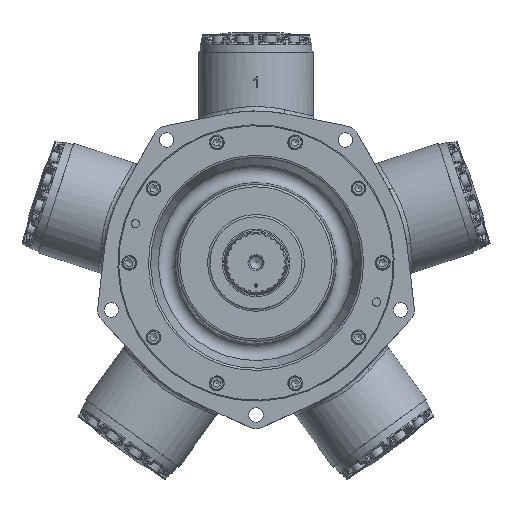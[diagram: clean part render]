
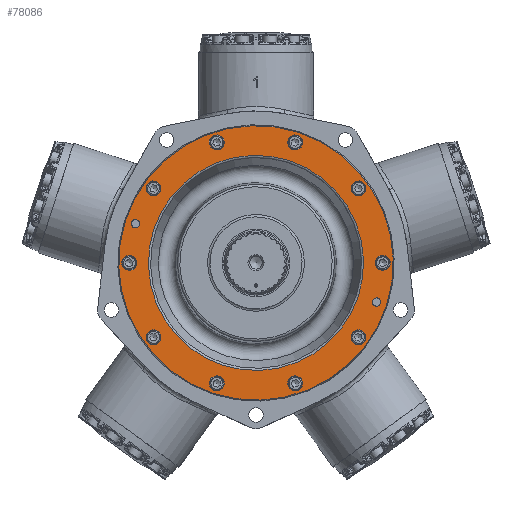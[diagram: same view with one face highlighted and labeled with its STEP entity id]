
A CAD part, top view. The second image highlights one B-rep face of the part: STEP entity #78086.
In plain terms, the highlighted planar face has unit normal (0, 0, 1).
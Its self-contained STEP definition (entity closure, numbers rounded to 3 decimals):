
#7395=FACE_BOUND('',#22198,.T.);
#7396=FACE_BOUND('',#22199,.T.);
#7397=FACE_BOUND('',#22200,.T.);
#7398=FACE_BOUND('',#22201,.T.);
#7399=FACE_BOUND('',#22202,.T.);
#7400=FACE_BOUND('',#22203,.T.);
#7401=FACE_BOUND('',#22204,.T.);
#7402=FACE_BOUND('',#22205,.T.);
#7403=FACE_BOUND('',#22206,.T.);
#7404=FACE_BOUND('',#22207,.T.);
#7405=FACE_BOUND('',#22208,.T.);
#7406=FACE_BOUND('',#22209,.T.);
#7407=FACE_BOUND('',#22210,.T.);
#17291=FACE_OUTER_BOUND('',#22197,.T.);
#22197=EDGE_LOOP('',(#54760));
#22198=EDGE_LOOP('',(#54761));
#22199=EDGE_LOOP('',(#54762));
#22200=EDGE_LOOP('',(#54763));
#22201=EDGE_LOOP('',(#54764));
#22202=EDGE_LOOP('',(#54765));
#22203=EDGE_LOOP('',(#54766));
#22204=EDGE_LOOP('',(#54767));
#22205=EDGE_LOOP('',(#54768));
#22206=EDGE_LOOP('',(#54769));
#22207=EDGE_LOOP('',(#54770));
#22208=EDGE_LOOP('',(#54771));
#22209=EDGE_LOOP('',(#54772));
#22210=EDGE_LOOP('',(#54773));
#26589=CIRCLE('',#83486,148.273);
#26601=CIRCLE('',#83506,189.179);
#26602=CIRCLE('',#83507,5.664);
#26603=CIRCLE('',#83508,5.664);
#26604=CIRCLE('',#83509,10.319);
#26605=CIRCLE('',#83510,10.319);
#26606=CIRCLE('',#83511,10.319);
#26607=CIRCLE('',#83512,10.319);
#26608=CIRCLE('',#83513,10.319);
#26609=CIRCLE('',#83514,10.319);
#26610=CIRCLE('',#83515,10.319);
#26611=CIRCLE('',#83516,10.319);
#26612=CIRCLE('',#83517,10.319);
#26613=CIRCLE('',#83518,10.319);
#31109=VERTEX_POINT('',#149790);
#31119=VERTEX_POINT('',#149824);
#31120=VERTEX_POINT('',#149826);
#31121=VERTEX_POINT('',#149828);
#31122=VERTEX_POINT('',#149830);
#31123=VERTEX_POINT('',#149832);
#31124=VERTEX_POINT('',#149834);
#31125=VERTEX_POINT('',#149836);
#31126=VERTEX_POINT('',#149838);
#31127=VERTEX_POINT('',#149840);
#31128=VERTEX_POINT('',#149842);
#31129=VERTEX_POINT('',#149844);
#31130=VERTEX_POINT('',#149846);
#31131=VERTEX_POINT('',#149848);
#39505=EDGE_CURVE('',#31109,#31109,#26589,.T.);
#39520=EDGE_CURVE('',#31119,#31119,#26601,.T.);
#39521=EDGE_CURVE('',#31120,#31120,#26602,.T.);
#39522=EDGE_CURVE('',#31121,#31121,#26603,.T.);
#39523=EDGE_CURVE('',#31122,#31122,#26604,.T.);
#39524=EDGE_CURVE('',#31123,#31123,#26605,.T.);
#39525=EDGE_CURVE('',#31124,#31124,#26606,.T.);
#39526=EDGE_CURVE('',#31125,#31125,#26607,.T.);
#39527=EDGE_CURVE('',#31126,#31126,#26608,.T.);
#39528=EDGE_CURVE('',#31127,#31127,#26609,.T.);
#39529=EDGE_CURVE('',#31128,#31128,#26610,.T.);
#39530=EDGE_CURVE('',#31129,#31129,#26611,.T.);
#39531=EDGE_CURVE('',#31130,#31130,#26612,.T.);
#39532=EDGE_CURVE('',#31131,#31131,#26613,.T.);
#54760=ORIENTED_EDGE('',*,*,#39520,.F.);
#54761=ORIENTED_EDGE('',*,*,#39521,.T.);
#54762=ORIENTED_EDGE('',*,*,#39522,.T.);
#54763=ORIENTED_EDGE('',*,*,#39523,.T.);
#54764=ORIENTED_EDGE('',*,*,#39524,.T.);
#54765=ORIENTED_EDGE('',*,*,#39525,.T.);
#54766=ORIENTED_EDGE('',*,*,#39526,.T.);
#54767=ORIENTED_EDGE('',*,*,#39527,.T.);
#54768=ORIENTED_EDGE('',*,*,#39528,.T.);
#54769=ORIENTED_EDGE('',*,*,#39529,.T.);
#54770=ORIENTED_EDGE('',*,*,#39530,.T.);
#54771=ORIENTED_EDGE('',*,*,#39531,.T.);
#54772=ORIENTED_EDGE('',*,*,#39532,.T.);
#54773=ORIENTED_EDGE('',*,*,#39505,.F.);
#71045=PLANE('',#83505);
#78086=ADVANCED_FACE('',(#17291,#7395,#7396,#7397,#7398,#7399,#7400,#7401,
#7402,#7403,#7404,#7405,#7406,#7407),#71045,.T.);
#83486=AXIS2_PLACEMENT_3D('',#149792,#93264,#93265);
#83505=AXIS2_PLACEMENT_3D('',#149823,#93305,#93306);
#83506=AXIS2_PLACEMENT_3D('',#149825,#93307,#93308);
#83507=AXIS2_PLACEMENT_3D('',#149827,#93309,#93310);
#83508=AXIS2_PLACEMENT_3D('',#149829,#93311,#93312);
#83509=AXIS2_PLACEMENT_3D('',#149831,#93313,#93314);
#83510=AXIS2_PLACEMENT_3D('',#149833,#93315,#93316);
#83511=AXIS2_PLACEMENT_3D('',#149835,#93317,#93318);
#83512=AXIS2_PLACEMENT_3D('',#149837,#93319,#93320);
#83513=AXIS2_PLACEMENT_3D('',#149839,#93321,#93322);
#83514=AXIS2_PLACEMENT_3D('',#149841,#93323,#93324);
#83515=AXIS2_PLACEMENT_3D('',#149843,#93325,#93326);
#83516=AXIS2_PLACEMENT_3D('',#149845,#93327,#93328);
#83517=AXIS2_PLACEMENT_3D('',#149847,#93329,#93330);
#83518=AXIS2_PLACEMENT_3D('',#149849,#93331,#93332);
#93264=DIRECTION('center_axis',(0.,0.,
1.));
#93265=DIRECTION('ref_axis',(-0.951,0.309,0.));
#93305=DIRECTION('center_axis',(0.,0.,
1.));
#93306=DIRECTION('ref_axis',(-0.309,-0.951,0.));
#93307=DIRECTION('center_axis',(0.,0.,
-1.));
#93308=DIRECTION('ref_axis',(-0.951,0.309,0.));
#93309=DIRECTION('center_axis',(0.,0.,
-1.));
#93310=DIRECTION('ref_axis',(-0.309,-0.951,0.));
#93311=DIRECTION('center_axis',(0.,0.,
-1.));
#93312=DIRECTION('ref_axis',(-0.309,-0.951,0.));
#93313=DIRECTION('center_axis',(0.,0.,
-1.));
#93314=DIRECTION('ref_axis',(0.809,0.588,0.));
#93315=DIRECTION('center_axis',(0.,0.,
-1.));
#93316=DIRECTION('ref_axis',(1.,0.,0.));
#93317=DIRECTION('center_axis',(0.,0.,
-1.));
#93318=DIRECTION('ref_axis',(0.809,-0.588,0.));
#93319=DIRECTION('center_axis',(0.,0.,
-1.));
#93320=DIRECTION('ref_axis',(0.309,-0.951,0.));
#93321=DIRECTION('center_axis',(0.,0.,
-1.));
#93322=DIRECTION('ref_axis',(-0.309,-0.951,0.));
#93323=DIRECTION('center_axis',(0.,0.,
-1.));
#93324=DIRECTION('ref_axis',(-0.809,-0.588,0.));
#93325=DIRECTION('center_axis',(0.,0.,
-1.));
#93326=DIRECTION('ref_axis',(-1.,0.,0.));
#93327=DIRECTION('center_axis',(0.,0.,
-1.));
#93328=DIRECTION('ref_axis',(-0.809,0.588,0.));
#93329=DIRECTION('center_axis',(0.,0.,
-1.));
#93330=DIRECTION('ref_axis',(-0.309,0.951,0.));
#93331=DIRECTION('center_axis',(0.,0.,
-1.));
#93332=DIRECTION('ref_axis',(0.309,0.951,0.));
#149790=CARTESIAN_POINT('',(45.819,141.016,19.664));
#149792=CARTESIAN_POINT('Origin',(0.,0.,
19.664));
#149823=CARTESIAN_POINT('Origin',(161.549,-52.49,19.664));
#149824=CARTESIAN_POINT('',(179.92,-58.459,19.664));
#149825=CARTESIAN_POINT('Origin',(0.,0.,
19.664));
#149826=CARTESIAN_POINT('',(167.829,-48.575,19.664));
#149827=CARTESIAN_POINT('Origin',(166.078,-53.962,19.664));
#149828=CARTESIAN_POINT('',(-164.328,59.349,19.664));
#149829=CARTESIAN_POINT('Origin',(-166.078,53.962,19.664));
#149830=CARTESIAN_POINT('',(-149.623,-108.707,19.664));
#149831=CARTESIAN_POINT('Origin',(-141.275,-102.642,19.664));
#149832=CARTESIAN_POINT('',(-184.944,0.,19.664));
#149833=CARTESIAN_POINT('Origin',(-174.625,0.,19.664));
#149834=CARTESIAN_POINT('',(-149.623,108.707,19.664));
#149835=CARTESIAN_POINT('Origin',(-141.275,102.642,19.664));
#149836=CARTESIAN_POINT('',(-57.151,175.892,19.664));
#149837=CARTESIAN_POINT('Origin',(-53.962,166.078,19.664));
#149838=CARTESIAN_POINT('',(57.151,175.892,19.664));
#149839=CARTESIAN_POINT('Origin',(53.962,166.078,19.664));
#149840=CARTESIAN_POINT('',(149.623,108.707,19.664));
#149841=CARTESIAN_POINT('Origin',(141.275,102.642,19.664));
#149842=CARTESIAN_POINT('',(184.944,0.,19.664));
#149843=CARTESIAN_POINT('Origin',(174.625,0.,19.664));
#149844=CARTESIAN_POINT('',(149.623,-108.707,19.664));
#149845=CARTESIAN_POINT('Origin',(141.275,-102.642,19.664));
#149846=CARTESIAN_POINT('',(57.151,-175.892,19.664));
#149847=CARTESIAN_POINT('Origin',(53.962,-166.078,19.664));
#149848=CARTESIAN_POINT('',(-57.151,-175.892,19.664));
#149849=CARTESIAN_POINT('Origin',(-53.962,-166.078,19.664));
